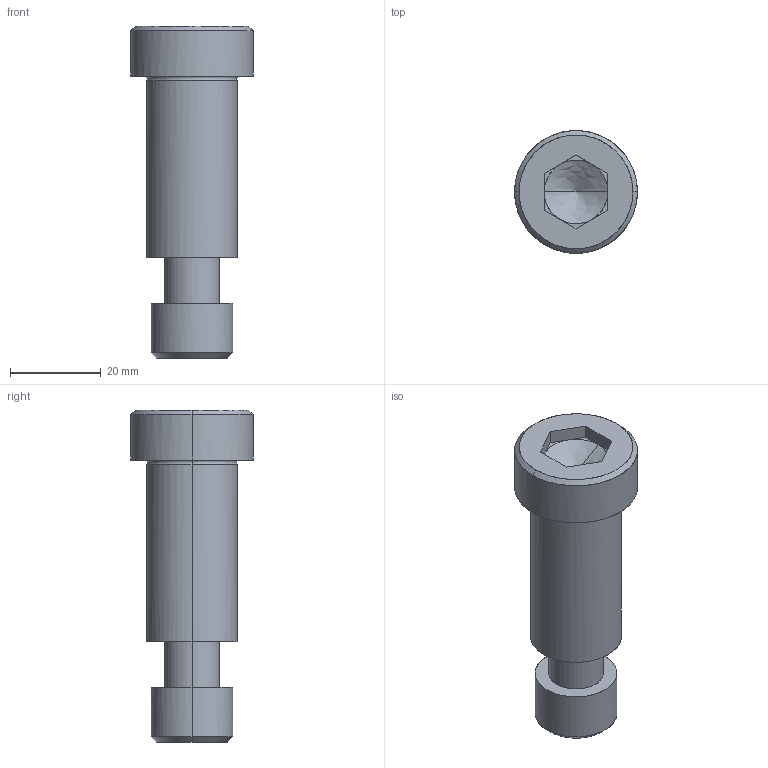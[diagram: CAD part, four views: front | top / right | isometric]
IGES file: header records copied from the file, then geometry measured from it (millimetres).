
Global section: file name: E:\UnigraphicsGraphicData\MISUMI_PRESS-PARTS\IGES\3d_sbtc20-40_05111_r00.igs; native system: NX V5.0; preprocessor: UGS NX IGES V5.0; author: MISUMI; date: 20110105.162449; units: millimetre
Bounding box: 27 x 27 x 73 mm (x, y, z)
Surface area: 8000 mm2 (no closed solid volume)
Topology: 0 solids, 0 shells, 52 faces, 294 edges, 290 vertices
Faces by surface type: bspline 52
